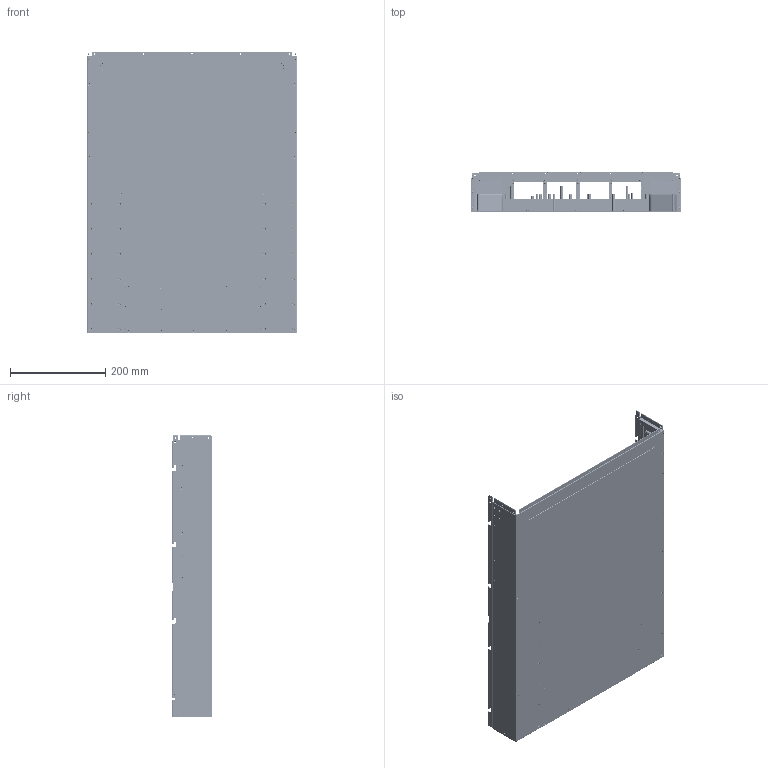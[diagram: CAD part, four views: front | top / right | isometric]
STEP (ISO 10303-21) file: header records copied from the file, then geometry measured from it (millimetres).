
FILE_DESCRIPTION((''),'2;1');
FILE_NAME('123100001257A_BASE_ASFG964BBX_ASM','2019-07-31T',('curtis_chen'),(''),'PRO/ENGINEER BY PARAMETRIC TECHNOLOGY CORPORATION, 2012480','PRO/ENGINEER BY PARAMETRIC TECHNOLOGY CORPORATION, 2012480','');
FILE_SCHEMA(('AUTOMOTIVE_DESIGN { 1 0 10303 214 1 1 1 1 }'));
Products named in the file (45): BASE_ASFG964BBX-0818-111ZZ; BKT_PSU_GUIDE_L; BKT_PSU_PLATE_L; MYLAR_PSU_L; CHASSIS-STOP-PIN_H3-5; RIVET; BKT_PSU_GUIDE_L_ASM; BKT_PSU_GUIDE_L_MIR; BKT_PSU_PLATE_L_MIR; MYLAR_PSU_L_MIR; CHASSIS-STOP-PIN_H3-5_MIR; RIVET_MIR; BKT_PSU_GUIDE_R_ASM; BKT_PSU_TUNNEL_L; SPONGE-1; SPONGE-2; SPONGE-3; BKT_PSU_TUNNEL_L_ASM; BKT_PSU_TUNNEL_L_MIR; SPONGE-1_MIR; SPONGE-2_MIR; SPONGE-3_MIR; BKT_PSU_TUNNEL_R_ASM; BSO_M3X37-5; BSO_M3X33-7; PIN-D3X41; PIN_H5; BSO_M3X53-95; BKT_FAN_HOUSING; GUIDE_FAN_GPON-1; LIGHT_PIPE_HOLDER; RIVET_DOUBLE; RIVET_DOUBLE_1-6; BKT_FAN_MODULE_ASM; BKT_BAFFLE; BKT_BAFFLE_ASM; RIVET_DOUBLE_2; NUT_M5; NUT-M3; NUT_PEM-SP-M4-1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
Assembly tree (221 placements, depth 3):
  123100001257A_BASE_ASFG964BBX_ASM
    BASE_ASFG964BBX-0818-111ZZ
    BKT_PSU_GUIDE_L_ASM
      BKT_PSU_GUIDE_L
      BKT_PSU_PLATE_L
      MYLAR_PSU_L
      CHASSIS-STOP-PIN_H3-5  x2
      RIVET  x12
    BKT_PSU_GUIDE_R_ASM
      BKT_PSU_GUIDE_L_MIR
      BKT_PSU_PLATE_L_MIR
      MYLAR_PSU_L_MIR
      CHASSIS-STOP-PIN_H3-5_MIR  x2
      RIVET_MIR  x12
    BKT_PSU_TUNNEL_L_ASM
      BKT_PSU_TUNNEL_L
      SPONGE-1
      SPONGE-2
      SPONGE-3
    BKT_PSU_TUNNEL_R_ASM
      BKT_PSU_TUNNEL_L_MIR
      SPONGE-1_MIR
      SPONGE-2_MIR
      SPONGE-3_MIR
    BSO_M3X37-5  x22
    BSO_M3X33-7
    PIN-D3X41  x2
    PIN_H5  x2
    BSO_M3X53-95  x3
    BKT_FAN_MODULE_ASM
      BKT_FAN_HOUSING
      GUIDE_FAN_GPON-1  x4
      LIGHT_PIPE_HOLDER  x5
      RIVET_DOUBLE  x8
      RIVET  x2
      RIVET_DOUBLE_1-6  x12
    BKT_BAFFLE_ASM
      BKT_BAFFLE
    RIVET  x83
    RIVET_DOUBLE_2  x8
    NUT_M5  x2
    NUT-M3  x2
    NUT_PEM-SP-M4-1  x2
    BASE_NO_COATING
    SILKSCREEN_BASE
    M4_NUT  x8
    NUT_RAIL  x2
Bounding box: 440 x 84.77 x 593.31 mm (x, y, z)
Volume: 705337 mm3; surface area: 1520026.6 mm2
Topology: 213 solids, 213 shells, 10951 faces, 27149 edges, 16855 vertices
Faces by surface type: cylinder 6014, plane 2699, bspline 1128, cone 776, torus 334
Entity records: 175811 total; most frequent: CARTESIAN_POINT 59039, DIRECTION 18485, ORIENTED_EDGE 18068, EDGE_CURVE 9034, PRESENTATION_STYLE_ASSIGNMENT 7515, STYLED_ITEM 7515, CURVE_STYLE 7494, AXIS2_PLACEMENT_3D 6756
